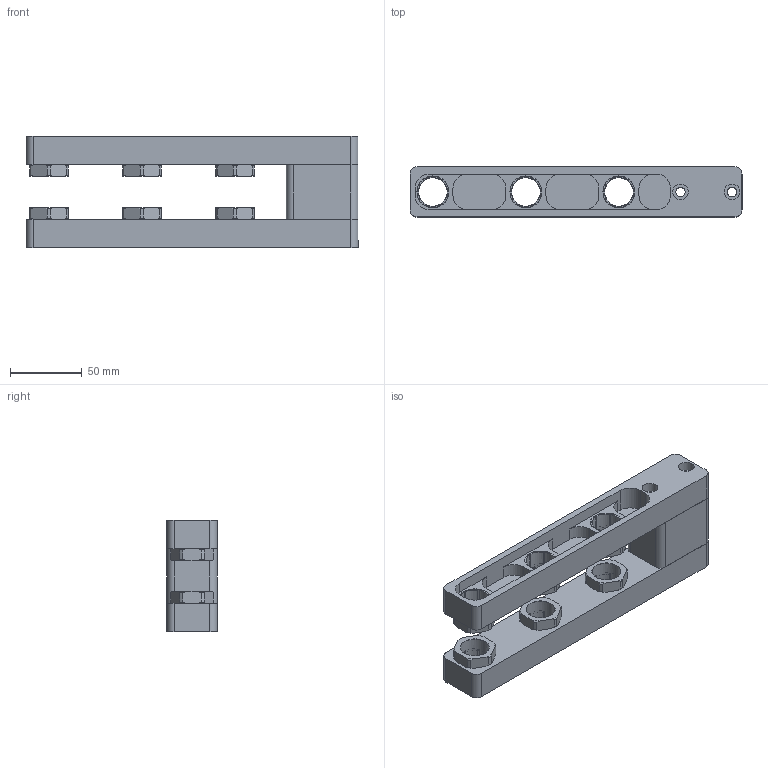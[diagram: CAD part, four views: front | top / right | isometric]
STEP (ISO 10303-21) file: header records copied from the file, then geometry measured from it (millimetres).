
FILE_DESCRIPTION(/* description */ (''),/* implementation_level */ '2;1');
FILE_NAME(/* name */ 'Z:\Systeme\Neue_Zeichnungen\Z2501030-B.stp',/* time_stamp */ '2021-03-25T09:10:34+01:00',/* author */ ('11000116'),/* organization */ (''),/* preprocessor_version */ 'ST-DEVELOPER v18',/* originating_system */ 'Autodesk Inventor 2020',/* authorisation */ '');
FILE_SCHEMA (('AUTOMOTIVE_DESIGN { 1 0 10303 214 3 1 1 }'));
Length unit declared in the file: millimetre
Products named in the file (7): Z2501030; Z3004647.01; Z3004646.01; Z3004648.02; 0483497; DIN 912 - M5 x 60; ISO 2338 - 4 h8 x 16
Assembly tree (17 placements, depth 2):
  Z2501030
    Z3004647.01
    Z3004646.01
    0483497  x6
    Z3004648.02
    DIN 912 - M5 x 60  x4
    ISO 2338 - 4 h8 x 16  x4
Bounding box: 232 x 35 x 78 mm (x, y, z)
Volume: 266249.9 mm3; surface area: 111715.4 mm2
Topology: 17 solids, 17 shells, 726 faces, 2073 edges, 1397 vertices
Faces by surface type: plane 294, cone 210, cylinder 176, torus 46
Full cylindrical faces by diameter (mm): 3.7 x4, 4 x10, 4.134 x4, 5 x4, 5.5 x8, 6.6 x6, 8.5 x4, 10 x4, 11 x2, 20 x6, 21.4 x6, 22.376 x6
Entity records: 8700 total; most frequent: CARTESIAN_POINT 1680, DIRECTION 1478, ORIENTED_EDGE 1404, EDGE_CURVE 702, AXIS2_PLACEMENT_3D 582, VERTEX_POINT 487, EDGE_LOOP 317, LINE 314
